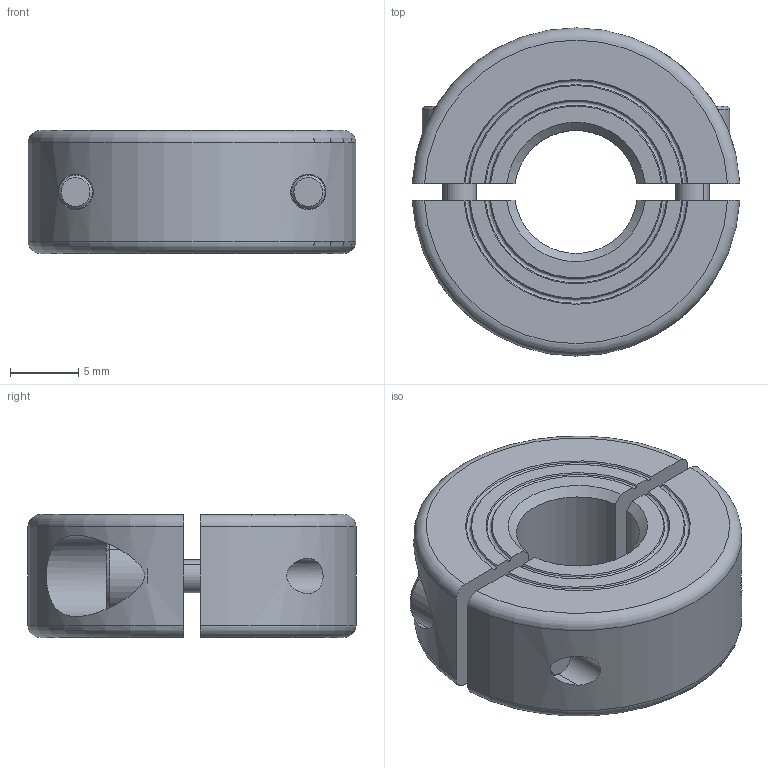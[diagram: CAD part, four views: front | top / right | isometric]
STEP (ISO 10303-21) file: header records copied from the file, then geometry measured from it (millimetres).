
FILE_DESCRIPTION((''),'2;1');
FILE_NAME('MSP-9-X','2016-09-08T',('SYSTEM'),(''),'PRO/ENGINEER BY PARAMETRIC TECHNOLOGY CORPORATION, 2015110','PRO/ENGINEER BY PARAMETRIC TECHNOLOGY CORPORATION, 2015110','');
FILE_SCHEMA(('AUTOMOTIVE_DESIGN { 1 0 10303 214 1 1 1 1 }'));
Length unit declared in the file: inch
Products named in the file (1): MSP-9-X
Bounding box: 23.97 x 24 x 9 mm (x, y, z)
Volume: 3117.6 mm3; surface area: 2414.3 mm2
Topology: 2 solids, 2 shells, 86 faces, 213 edges, 141 vertices
Faces by surface type: plane 34, cylinder 24, cone 20, torus 8
Entity records: 3490 total; most frequent: CARTESIAN_POINT 802, ORIENTED_EDGE 426, DIRECTION 404, EDGE_CURVE 213, AXIS2_PLACEMENT_3D 158, VERTEX_POINT 141, EDGE_LOOP 100, VECTOR 88
